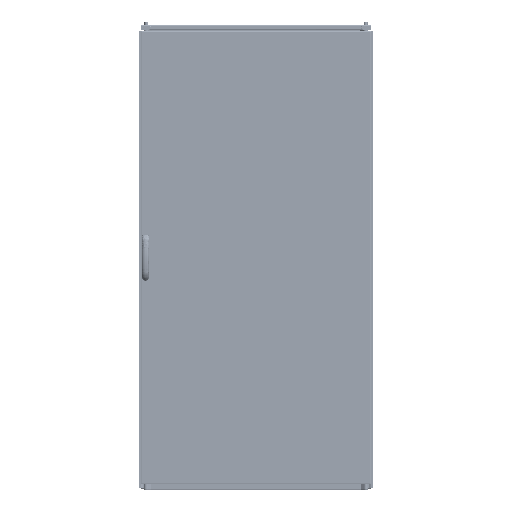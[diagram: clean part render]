
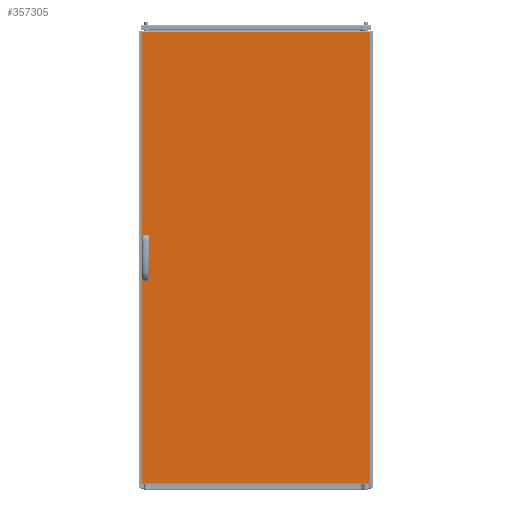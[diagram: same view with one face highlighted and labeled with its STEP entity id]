
A CAD part, top view. The second image highlights one B-rep face of the part: STEP entity #357305.
In plain terms, the highlighted planar face has unit normal (0, 0, 1).
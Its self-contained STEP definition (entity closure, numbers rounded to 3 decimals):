
#1120 = DIRECTION ( 'NONE',  ( 1., 0., 0. ) ) ;
#1126 = DIRECTION ( 'NONE',  ( 0., 0., -1. ) ) ;
#1299 = AXIS2_PLACEMENT_3D ( 'NONE', #206278, #321213, #211755 ) ;
#4297 = ORIENTED_EDGE ( 'NONE', *, *, #85761, .T. ) ;
#7690 = AXIS2_PLACEMENT_3D ( 'NONE', #219816, #331147, #336622 ) ;
#10731 = CARTESIAN_POINT ( 'NONE',  ( 9.7, 947.75, 19. ) ) ;
#11766 = EDGE_CURVE ( 'NONE', #117300, #270019, #197423, .T. ) ;
#15195 = VERTEX_POINT ( 'NONE', #365007 ) ;
#15263 = EDGE_CURVE ( 'NONE', #270019, #303907, #82892, .T. ) ;
#18950 = CARTESIAN_POINT ( 'NONE',  ( 992., 3., 19. ) ) ;
#19419 = DIRECTION ( 'NONE',  ( 0., -1., 0. ) ) ;
#21798 = VECTOR ( 'NONE', #263150, 1000. ) ;
#23469 = AXIS2_PLACEMENT_3D ( 'NONE', #236319, #295607, #93450 ) ;
#27178 = LINE ( 'NONE', #140436, #298576 ) ;
#27207 = DIRECTION ( 'NONE',  ( 0., 1., 0. ) ) ;
#32690 = ORIENTED_EDGE ( 'NONE', *, *, #297074, .F. ) ;
#34436 = DIRECTION ( 'NONE',  ( 0., 1., 0. ) ) ;
#36038 = ORIENTED_EDGE ( 'NONE', *, *, #15263, .F. ) ;
#41763 = CARTESIAN_POINT ( 'NONE',  ( 992., 1960., 19. ) ) ;
#50947 = LINE ( 'NONE', #134548, #112264 ) ;
#55034 = CARTESIAN_POINT ( 'NONE',  ( 28.7, 947.75, 19. ) ) ;
#64778 = VERTEX_POINT ( 'NONE', #271246 ) ;
#70238 = ORIENTED_EDGE ( 'NONE', *, *, #296765, .F. ) ;
#72582 = CIRCLE ( 'NONE', #1299, 9.5 ) ;
#82209 = VECTOR ( 'NONE', #34436, 1000. ) ;
#82892 = LINE ( 'NONE', #55034, #215399 ) ;
#83948 = CARTESIAN_POINT ( 'NONE',  ( 28.7, 1060.25, 19. ) ) ;
#85761 = EDGE_CURVE ( 'NONE', #358346, #64778, #238215, .T. ) ;
#91606 = EDGE_LOOP ( 'NONE', ( #70238, #172776, #349160, #311406 ) ) ;
#93450 = DIRECTION ( 'NONE',  ( 1., 0., 0. ) ) ;
#97208 = CARTESIAN_POINT ( 'NONE',  ( 28.7, 1060.25, 19. ) ) ;
#105455 = CARTESIAN_POINT ( 'NONE',  ( 9.7, 947.75, 19. ) ) ;
#112264 = VECTOR ( 'NONE', #19419, 1000. ) ;
#114097 = DIRECTION ( 'NONE',  ( 0., 0., 1. ) ) ;
#117300 = VERTEX_POINT ( 'NONE', #221859 ) ;
#134548 = CARTESIAN_POINT ( 'NONE',  ( 9.7, 1060.25, 19. ) ) ;
#134934 = VERTEX_POINT ( 'NONE', #169159 ) ;
#140436 = CARTESIAN_POINT ( 'NONE',  ( 0., 3., 19. ) ) ;
#141850 = EDGE_CURVE ( 'NONE', #153005, #308197, #145170, .T. ) ;
#142106 = CARTESIAN_POINT ( 'NONE',  ( 992., 1957., 19. ) ) ;
#145170 = LINE ( 'NONE', #83948, #362893 ) ;
#146109 = ORIENTED_EDGE ( 'NONE', *, *, #357154, .F. ) ;
#150013 = LINE ( 'NONE', #10731, #21798 ) ;
#153005 = VERTEX_POINT ( 'NONE', #237907 ) ;
#153197 = LINE ( 'NONE', #41763, #82209 ) ;
#166845 = ORIENTED_EDGE ( 'NONE', *, *, #175421, .T. ) ;
#167324 = VERTEX_POINT ( 'NONE', #105455 ) ;
#169159 = CARTESIAN_POINT ( 'NONE',  ( 3., 3., 19. ) ) ;
#170186 = FACE_BOUND ( 'NONE', #203955, .T. ) ;
#171987 = FACE_BOUND ( 'NONE', #91606, .T. ) ;
#172776 = ORIENTED_EDGE ( 'NONE', *, *, #241623, .F. ) ;
#173623 = AXIS2_PLACEMENT_3D ( 'NONE', #225489, #114097, #366484 ) ;
#175421 = EDGE_CURVE ( 'NONE', #355207, #358346, #153197, .T. ) ;
#184006 = CARTESIAN_POINT ( 'NONE',  ( 3., 1960., 19. ) ) ;
#197423 = CIRCLE ( 'NONE', #173623, 9.5 ) ;
#201620 = PLANE ( 'NONE',  #300469 ) ;
#203955 = EDGE_LOOP ( 'NONE', ( #146109, #32690, #36038, #265012 ) ) ;
#206278 = CARTESIAN_POINT ( 'NONE',  ( 19.2, 1012.25, 19. ) ) ;
#211755 = DIRECTION ( 'NONE',  ( 1., 0., 0. ) ) ;
#212227 = CARTESIAN_POINT ( 'NONE',  ( 0., 1957., 19. ) ) ;
#215399 = VECTOR ( 'NONE', #27207, 1000. ) ;
#216370 = VERTEX_POINT ( 'NONE', #308843 ) ;
#219816 = CARTESIAN_POINT ( 'NONE',  ( 19.2, 1060.25, 19. ) ) ;
#221130 = ORIENTED_EDGE ( 'NONE', *, *, #264689, .T. ) ;
#221859 = CARTESIAN_POINT ( 'NONE',  ( 9.7, 899.75, 19. ) ) ;
#225489 = CARTESIAN_POINT ( 'NONE',  ( 19.2, 899.75, 19. ) ) ;
#235779 = VECTOR ( 'NONE', #297130, 1000. ) ;
#236319 = CARTESIAN_POINT ( 'NONE',  ( 19.2, 947.75, 19. ) ) ;
#237907 = CARTESIAN_POINT ( 'NONE',  ( 28.7, 1012.25, 19. ) ) ;
#238116 = CARTESIAN_POINT ( 'NONE',  ( 28.7, 899.75, 19. ) ) ;
#238215 = LINE ( 'NONE', #212227, #298971 ) ;
#241623 = EDGE_CURVE ( 'NONE', #308197, #216370, #315796, .T. ) ;
#242528 = EDGE_CURVE ( 'NONE', #134934, #355207, #27178, .T. ) ;
#263150 = DIRECTION ( 'NONE',  ( 0., -1., 0. ) ) ;
#264689 = EDGE_CURVE ( 'NONE', #64778, #134934, #321322, .T. ) ;
#265012 = ORIENTED_EDGE ( 'NONE', *, *, #11766, .F. ) ;
#270019 = VERTEX_POINT ( 'NONE', #238116 ) ;
#271246 = CARTESIAN_POINT ( 'NONE',  ( 3., 1957., 19. ) ) ;
#275271 = ORIENTED_EDGE ( 'NONE', *, *, #242528, .T. ) ;
#281435 = CARTESIAN_POINT ( 'NONE',  ( 0., 1960., 19. ) ) ;
#285059 = FACE_OUTER_BOUND ( 'NONE', #360073, .T. ) ;
#295607 = DIRECTION ( 'NONE',  ( 0., 0., 1. ) ) ;
#296765 = EDGE_CURVE ( 'NONE', #216370, #15195, #50947, .T. ) ;
#297074 = EDGE_CURVE ( 'NONE', #303907, #167324, #331614, .T. ) ;
#297130 = DIRECTION ( 'NONE',  ( 0., -1., 0. ) ) ;
#298576 = VECTOR ( 'NONE', #1120, 1000. ) ;
#298971 = VECTOR ( 'NONE', #323563, 1000. ) ;
#300469 = AXIS2_PLACEMENT_3D ( 'NONE', #281435, #1126, #340759 ) ;
#302259 = CARTESIAN_POINT ( 'NONE',  ( 28.7, 947.75, 19. ) ) ;
#303907 = VERTEX_POINT ( 'NONE', #302259 ) ;
#308197 = VERTEX_POINT ( 'NONE', #97208 ) ;
#308843 = CARTESIAN_POINT ( 'NONE',  ( 9.7, 1060.25, 19. ) ) ;
#311406 = ORIENTED_EDGE ( 'NONE', *, *, #326826, .F. ) ;
#315796 = CIRCLE ( 'NONE', #7690, 9.5 ) ;
#321213 = DIRECTION ( 'NONE',  ( 0., 0., 1. ) ) ;
#321322 = LINE ( 'NONE', #184006, #235779 ) ;
#323563 = DIRECTION ( 'NONE',  ( -1., 0., 0. ) ) ;
#326826 = EDGE_CURVE ( 'NONE', #15195, #153005, #72582, .T. ) ;
#331147 = DIRECTION ( 'NONE',  ( 0., 0., 1. ) ) ;
#331614 = CIRCLE ( 'NONE', #23469, 9.5 ) ;
#336622 = DIRECTION ( 'NONE',  ( 1., 0., 0. ) ) ;
#340759 = DIRECTION ( 'NONE',  ( -1., 0., 0. ) ) ;
#341880 = DIRECTION ( 'NONE',  ( 0., 1., 0. ) ) ;
#349160 = ORIENTED_EDGE ( 'NONE', *, *, #141850, .F. ) ;
#355207 = VERTEX_POINT ( 'NONE', #18950 ) ;
#357154 = EDGE_CURVE ( 'NONE', #167324, #117300, #150013, .T. ) ;
#357305 = ADVANCED_FACE ( 'NONE', ( #170186, #171987, #285059 ), #201620, .F. ) ;
#358346 = VERTEX_POINT ( 'NONE', #142106 ) ;
#360073 = EDGE_LOOP ( 'NONE', ( #166845, #4297, #221130, #275271 ) ) ;
#362893 = VECTOR ( 'NONE', #341880, 1000. ) ;
#365007 = CARTESIAN_POINT ( 'NONE',  ( 9.7, 1012.25, 19. ) ) ;
#366484 = DIRECTION ( 'NONE',  ( 1., 0., 0. ) ) ;
